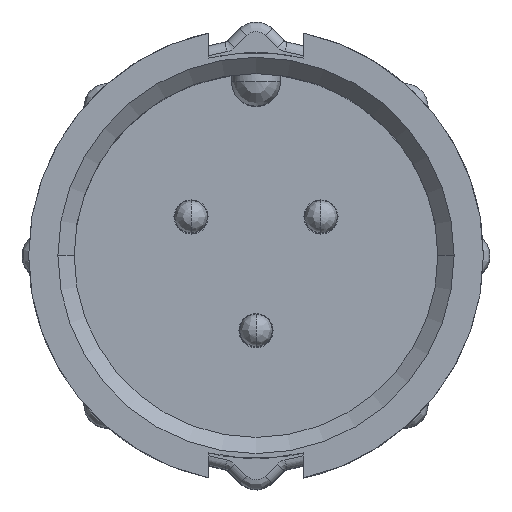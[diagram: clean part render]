
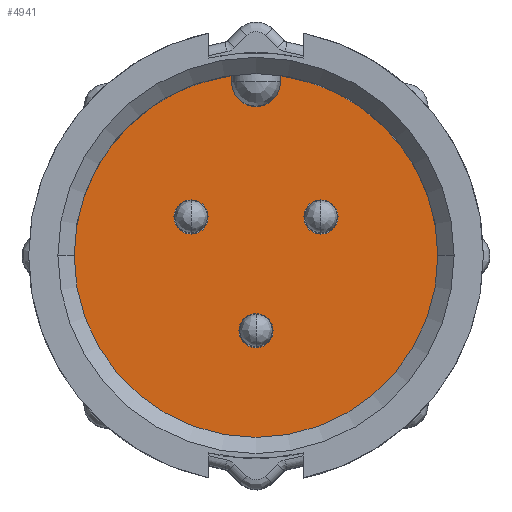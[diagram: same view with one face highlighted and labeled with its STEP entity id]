
A CAD part, top view. The second image highlights one B-rep face of the part: STEP entity #4941.
In plain terms, the highlighted planar face has unit normal (0, 0, 1).
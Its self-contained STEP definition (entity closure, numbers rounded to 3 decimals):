
#21 = VERTEX_POINT ( 'NONE', #11991 ) ;
#206 = EDGE_LOOP ( 'NONE', ( #10601, #5297 ) ) ;
#209 = CIRCLE ( 'NONE', #216, 5.6 ) ;
#216 = AXIS2_PLACEMENT_3D ( 'NONE', #2481, #10869, #11011 ) ;
#247 = CARTESIAN_POINT ( 'NONE',  ( 0., -2.3, -9. ) ) ;
#323 = AXIS2_PLACEMENT_3D ( 'NONE', #1391, #7933, #543 ) ;
#326 = EDGE_LOOP ( 'NONE', ( #11531, #3890 ) ) ;
#369 = CIRCLE ( 'NONE', #7177, 5.6 ) ;
#514 = AXIS2_PLACEMENT_3D ( 'NONE', #10721, #1047, #5320 ) ;
#543 = DIRECTION ( 'NONE',  ( 1., 0., 0. ) ) ;
#604 = DIRECTION ( 'NONE',  ( 0., 0., 1. ) ) ;
#672 = DIRECTION ( 'NONE',  ( 1., 0., 0. ) ) ;
#1047 = DIRECTION ( 'NONE',  ( 0., 0., 1. ) ) ;
#1210 = CIRCLE ( 'NONE', #9170, 0.525 ) ;
#1231 = CARTESIAN_POINT ( 'NONE',  ( 2.525, 1.2, -9. ) ) ;
#1391 = CARTESIAN_POINT ( 'NONE',  ( 2., 1.2, -9. ) ) ;
#1630 = DIRECTION ( 'NONE',  ( 1., 0., 0. ) ) ;
#1702 = FACE_BOUND ( 'NONE', #326, .T. ) ;
#2179 = EDGE_LOOP ( 'NONE', ( #6772, #14037, #2549, #5965, #4631, #2609 ) ) ;
#2192 = AXIS2_PLACEMENT_3D ( 'NONE', #3401, #10922, #7653 ) ;
#2282 = CARTESIAN_POINT ( 'NONE',  ( -2., 1.2, -9. ) ) ;
#2351 = DIRECTION ( 'NONE',  ( 0., 0., 1. ) ) ;
#2434 = VERTEX_POINT ( 'NONE', #4369 ) ;
#2481 = CARTESIAN_POINT ( 'NONE',  ( 0., 0., -9. ) ) ;
#2549 = ORIENTED_EDGE ( 'NONE', *, *, #7082, .T. ) ;
#2599 = DIRECTION ( 'NONE',  ( 1., 0., 0. ) ) ;
#2609 = ORIENTED_EDGE ( 'NONE', *, *, #12816, .F. ) ;
#2709 = DIRECTION ( 'NONE',  ( 0., 0., 1. ) ) ;
#2893 = VERTEX_POINT ( 'NONE', #12112 ) ;
#3242 = CIRCLE ( 'NONE', #11189, 0.75 ) ;
#3260 = DIRECTION ( 'NONE',  ( 1., 0., 0. ) ) ;
#3281 = EDGE_CURVE ( 'NONE', #4091, #2434, #1210, .T. ) ;
#3401 = CARTESIAN_POINT ( 'NONE',  ( 0., -2.3, -9. ) ) ;
#3570 = CIRCLE ( 'NONE', #8107, 0.525 ) ;
#3827 = LINE ( 'NONE', #12507, #13563 ) ;
#3856 = VERTEX_POINT ( 'NONE', #11357 ) ;
#3890 = ORIENTED_EDGE ( 'NONE', *, *, #13269, .F. ) ;
#3898 = EDGE_CURVE ( 'NONE', #2434, #4091, #7587, .T. ) ;
#4038 = CIRCLE ( 'NONE', #8792, 0.525 ) ;
#4091 = VERTEX_POINT ( 'NONE', #1231 ) ;
#4199 = VERTEX_POINT ( 'NONE', #12338 ) ;
#4347 = EDGE_CURVE ( 'NONE', #3856, #6030, #13065, .T. ) ;
#4369 = CARTESIAN_POINT ( 'NONE',  ( 1.475, 1.2, -9. ) ) ;
#4558 = VERTEX_POINT ( 'NONE', #8619 ) ;
#4631 = ORIENTED_EDGE ( 'NONE', *, *, #8719, .F. ) ;
#4746 = CARTESIAN_POINT ( 'NONE',  ( 5.6, 0., -9. ) ) ;
#4915 = FACE_BOUND ( 'NONE', #206, .T. ) ;
#4941 = ADVANCED_FACE ( 'NONE', ( #1702, #4915, #13600, #9246 ), #10383, .T. ) ;
#5120 = AXIS2_PLACEMENT_3D ( 'NONE', #5156, #604, #672 ) ;
#5156 = CARTESIAN_POINT ( 'NONE',  ( -2., 1.2, -9. ) ) ;
#5297 = ORIENTED_EDGE ( 'NONE', *, *, #3898, .F. ) ;
#5320 = DIRECTION ( 'NONE',  ( 1., 0., 0. ) ) ;
#5391 = DIRECTION ( 'NONE',  ( 0., 1., 0. ) ) ;
#5819 = DIRECTION ( 'NONE',  ( 0., 0., 1. ) ) ;
#5965 = ORIENTED_EDGE ( 'NONE', *, *, #12424, .F. ) ;
#6030 = VERTEX_POINT ( 'NONE', #8935 ) ;
#6496 = VECTOR ( 'NONE', #5391, 1000. ) ;
#6588 = CARTESIAN_POINT ( 'NONE',  ( 2., 1.2, -9. ) ) ;
#6772 = ORIENTED_EDGE ( 'NONE', *, *, #8896, .T. ) ;
#6823 = EDGE_LOOP ( 'NONE', ( #12681, #9272 ) ) ;
#7082 = EDGE_CURVE ( 'NONE', #9914, #4199, #369, .T. ) ;
#7177 = AXIS2_PLACEMENT_3D ( 'NONE', #7945, #5819, #10160 ) ;
#7186 = CIRCLE ( 'NONE', #2192, 0.525 ) ;
#7548 = CIRCLE ( 'NONE', #514, 5.6 ) ;
#7587 = CIRCLE ( 'NONE', #323, 0.525 ) ;
#7653 = DIRECTION ( 'NONE',  ( 1., 0., 0. ) ) ;
#7933 = DIRECTION ( 'NONE',  ( 0., 0., 1. ) ) ;
#7945 = CARTESIAN_POINT ( 'NONE',  ( 0., 0., -9. ) ) ;
#8107 = AXIS2_PLACEMENT_3D ( 'NONE', #247, #10206, #2599 ) ;
#8171 = CARTESIAN_POINT ( 'NONE',  ( -5.824, -5.828, -9. ) ) ;
#8619 = CARTESIAN_POINT ( 'NONE',  ( -5.6, 0., -9. ) ) ;
#8719 = EDGE_CURVE ( 'NONE', #11818, #13427, #3242, .T. ) ;
#8792 = AXIS2_PLACEMENT_3D ( 'NONE', #2282, #2351, #10026 ) ;
#8896 = EDGE_CURVE ( 'NONE', #2893, #4558, #7548, .T. ) ;
#8935 = CARTESIAN_POINT ( 'NONE',  ( -1.475, 1.2, -9. ) ) ;
#9170 = AXIS2_PLACEMENT_3D ( 'NONE', #6588, #10076, #3260 ) ;
#9246 = FACE_OUTER_BOUND ( 'NONE', #2179, .T. ) ;
#9272 = ORIENTED_EDGE ( 'NONE', *, *, #4347, .F. ) ;
#9377 = DIRECTION ( 'NONE',  ( 1., 0., 0. ) ) ;
#9649 = AXIS2_PLACEMENT_3D ( 'NONE', #8171, #2709, #1630 ) ;
#9791 = CARTESIAN_POINT ( 'NONE',  ( 0.75, -0.028, -9. ) ) ;
#9914 = VERTEX_POINT ( 'NONE', #4746 ) ;
#10026 = DIRECTION ( 'NONE',  ( 1., 0., 0. ) ) ;
#10076 = DIRECTION ( 'NONE',  ( 0., 0., 1. ) ) ;
#10160 = DIRECTION ( 'NONE',  ( 1., 0., 0. ) ) ;
#10206 = DIRECTION ( 'NONE',  ( 0., 0., 1. ) ) ;
#10334 = EDGE_CURVE ( 'NONE', #4558, #9914, #209, .T. ) ;
#10383 = PLANE ( 'NONE',  #9649 ) ;
#10564 = CARTESIAN_POINT ( 'NONE',  ( -0.75, 5.35, -9. ) ) ;
#10601 = ORIENTED_EDGE ( 'NONE', *, *, #3281, .F. ) ;
#10692 = CARTESIAN_POINT ( 'NONE',  ( 0.75, 5.35, -9. ) ) ;
#10721 = CARTESIAN_POINT ( 'NONE',  ( 0., 0., -9. ) ) ;
#10869 = DIRECTION ( 'NONE',  ( 0., 0., 1. ) ) ;
#10922 = DIRECTION ( 'NONE',  ( 0., 0., 1. ) ) ;
#11011 = DIRECTION ( 'NONE',  ( 1., 0., 0. ) ) ;
#11189 = AXIS2_PLACEMENT_3D ( 'NONE', #13664, #11443, #9377 ) ;
#11206 = VERTEX_POINT ( 'NONE', #12157 ) ;
#11357 = CARTESIAN_POINT ( 'NONE',  ( -2.525, 1.2, -9. ) ) ;
#11358 = DIRECTION ( 'NONE',  ( 0., -1., 0. ) ) ;
#11443 = DIRECTION ( 'NONE',  ( 0., 0., 1. ) ) ;
#11531 = ORIENTED_EDGE ( 'NONE', *, *, #12605, .F. ) ;
#11798 = LINE ( 'NONE', #9791, #6496 ) ;
#11818 = VERTEX_POINT ( 'NONE', #10564 ) ;
#11991 = CARTESIAN_POINT ( 'NONE',  ( -0.525, -2.3, -9. ) ) ;
#12112 = CARTESIAN_POINT ( 'NONE',  ( -0.75, 5.55, -9. ) ) ;
#12157 = CARTESIAN_POINT ( 'NONE',  ( 0.525, -2.3, -9. ) ) ;
#12338 = CARTESIAN_POINT ( 'NONE',  ( 0.75, 5.55, -9. ) ) ;
#12424 = EDGE_CURVE ( 'NONE', #13427, #4199, #11798, .T. ) ;
#12507 = CARTESIAN_POINT ( 'NONE',  ( -0.75, -0.028, -9. ) ) ;
#12605 = EDGE_CURVE ( 'NONE', #11206, #21, #7186, .T. ) ;
#12681 = ORIENTED_EDGE ( 'NONE', *, *, #14091, .F. ) ;
#12816 = EDGE_CURVE ( 'NONE', #2893, #11818, #3827, .T. ) ;
#13065 = CIRCLE ( 'NONE', #5120, 0.525 ) ;
#13269 = EDGE_CURVE ( 'NONE', #21, #11206, #3570, .T. ) ;
#13427 = VERTEX_POINT ( 'NONE', #10692 ) ;
#13563 = VECTOR ( 'NONE', #11358, 1000. ) ;
#13600 = FACE_BOUND ( 'NONE', #6823, .T. ) ;
#13664 = CARTESIAN_POINT ( 'NONE',  ( 0., 5.35, -9. ) ) ;
#14037 = ORIENTED_EDGE ( 'NONE', *, *, #10334, .T. ) ;
#14091 = EDGE_CURVE ( 'NONE', #6030, #3856, #4038, .T. ) ;
